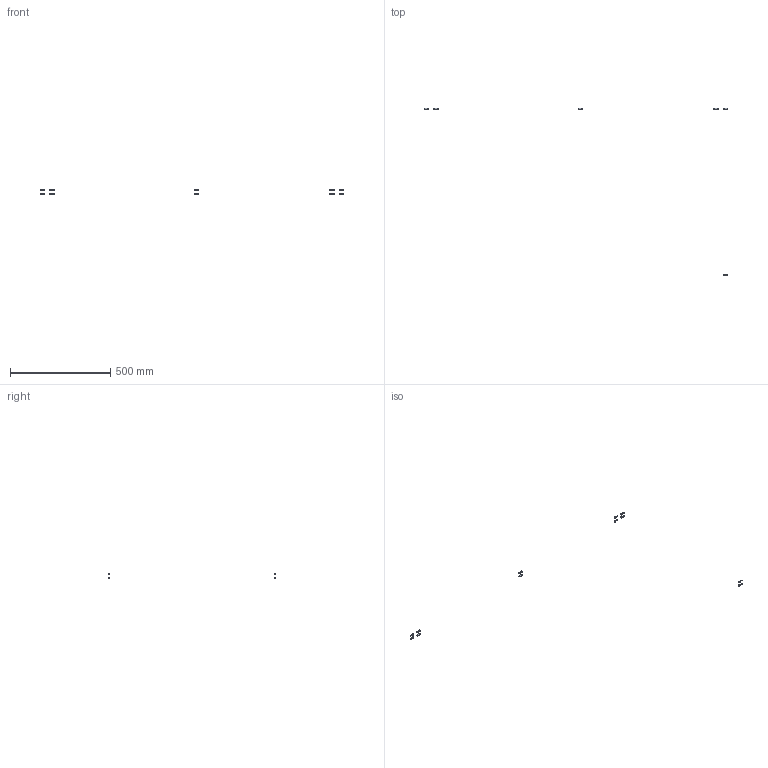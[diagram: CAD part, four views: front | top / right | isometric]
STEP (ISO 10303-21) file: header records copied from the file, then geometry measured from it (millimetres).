
FILE_DESCRIPTION(/* description */ (''),/* implementation_level */ '2;1');
FILE_NAME(/* name */ 'Y-33C8~1',/* time_stamp */ '2014-02-14T19:39:06+01:00',/* author */ (''),/* organization */ (''),/* preprocessor_version */ 'ST-DEVELOPER v14',/* originating_system */ '',/* authorisation */ '');
FILE_SCHEMA (('AUTOMOTIVE_DESIGN'));
Length unit declared in the file: millimetre
Products named in the file (2): Document; screw DIN912-like, M5x16
Assembly tree (6 placements, depth 2):
  Document
    screw DIN912-like, M5x16  x6
Bounding box: 1510 x 838.5 x 28.48 mm (x, y, z)
Volume: 6691.5 mm3; surface area: 6248.7 mm2
Topology: 12 solids, 12 shells, 300 faces, 672 edges, 396 vertices
Faces by surface type: plane 180, bspline 120
Entity records: 9581 total; most frequent: CARTESIAN_POINT 4405, B_SPLINE_CURVE_WITH_KNOTS 882, ORIENTED_EDGE 756, PCURVE 756, DEFINITIONAL_REPRESENTATION 756, SURFACE_CURVE 378, EDGE_CURVE 378, VERTEX_POINT 231
